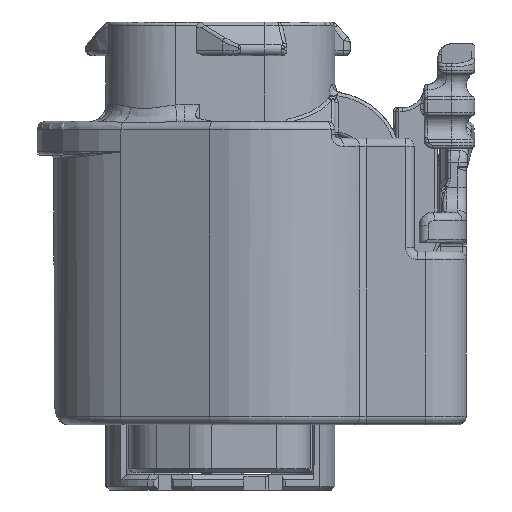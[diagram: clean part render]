
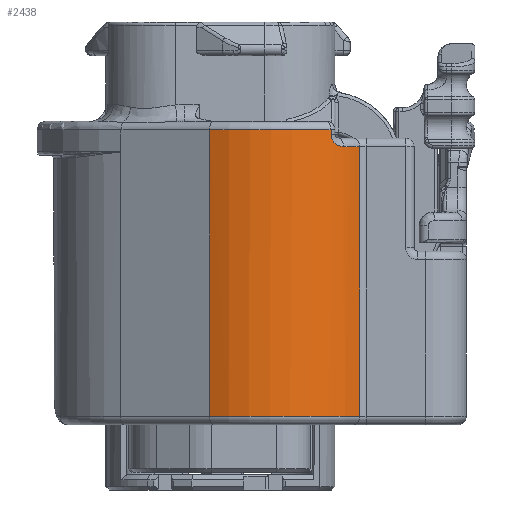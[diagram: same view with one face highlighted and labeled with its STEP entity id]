
A CAD part, left-side view. The second image highlights one B-rep face of the part: STEP entity #2438.
In plain terms, the highlighted cylindrical face has radius 7.25 mm (diameter 14.5 mm), a partial arc.
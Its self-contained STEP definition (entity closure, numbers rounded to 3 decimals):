
#2438=ADVANCED_FACE('',(#5950),#4859,.T.);
#4859=CYLINDRICAL_SURFACE('',#43408,7.25);
#5950=FACE_OUTER_BOUND('',#8516,.T.);
#8516=EDGE_LOOP('',(#18976,#18977,#18978,#18979,#18980,#18981,#18982));
#11052=B_SPLINE_CURVE_WITH_KNOTS('',3,(#64135,#64136,#64137,#64138,#64139,
#64140,#64141,#64142,#64143,#64144,#64145,#64146,#64147,#64148,#64149,#64150,
#64151,#64152,#64153),.UNSPECIFIED.,.F.,.F.,(4,3,3,3,3,3,4),(0.,0.054,
0.299,0.502,0.677,0.839,
1.),.UNSPECIFIED.);
#12403=LINE('',#64156,#15418);
#12404=LINE('',#64160,#15419);
#12405=LINE('',#64164,#15420);
#15418=VECTOR('',#49354,1.);
#15419=VECTOR('',#49357,1.);
#15420=VECTOR('',#49360,1.);
#18976=ORIENTED_EDGE('',*,*,#35379,.T.);
#18977=ORIENTED_EDGE('',*,*,#35380,.T.);
#18978=ORIENTED_EDGE('',*,*,#35381,.T.);
#18979=ORIENTED_EDGE('',*,*,#35382,.F.);
#18980=ORIENTED_EDGE('',*,*,#35383,.T.);
#18981=ORIENTED_EDGE('',*,*,#35384,.T.);
#18982=ORIENTED_EDGE('',*,*,#35385,.T.);
#31417=VERTEX_POINT('',#64154);
#31418=VERTEX_POINT('',#64155);
#31419=VERTEX_POINT('',#64157);
#31420=VERTEX_POINT('',#64159);
#31421=VERTEX_POINT('',#64161);
#31422=VERTEX_POINT('',#64163);
#31423=VERTEX_POINT('',#64165);
#35379=EDGE_CURVE('',#31417,#31418,#11052,.T.);
#35380=EDGE_CURVE('',#31418,#31419,#12403,.T.);
#35381=EDGE_CURVE('',#31419,#31420,#40873,.T.);
#35382=EDGE_CURVE('',#31421,#31420,#12404,.T.);
#35383=EDGE_CURVE('',#31421,#31422,#40874,.T.);
#35384=EDGE_CURVE('',#31422,#31423,#12405,.T.);
#35385=EDGE_CURVE('',#31423,#31417,#40875,.T.);
#40873=CIRCLE('',#43405,7.25);
#40874=CIRCLE('',#43406,7.25);
#40875=CIRCLE('',#43407,7.25);
#43405=AXIS2_PLACEMENT_3D('',#64158,#49355,#49356);
#43406=AXIS2_PLACEMENT_3D('',#64162,#49358,#49359);
#43407=AXIS2_PLACEMENT_3D('',#64166,#49361,#49362);
#43408=AXIS2_PLACEMENT_3D('',#64167,#49363,#49364);
#49354=DIRECTION('',(0.,0.,1.));
#49355=DIRECTION('',(0.,0.,-1.));
#49356=DIRECTION('',(1.,0.,0.));
#49357=DIRECTION('',(0.,0.,1.));
#49358=DIRECTION('',(0.,0.,1.));
#49359=DIRECTION('',(1.,0.,0.));
#49360=DIRECTION('',(0.,0.,1.));
#49361=DIRECTION('',(0.,0.,-1.));
#49362=DIRECTION('',(1.,0.,0.));
#49363=DIRECTION('',(0.,0.,1.));
#49364=DIRECTION('',(1.,0.,0.));
#64135=CARTESIAN_POINT('',(-9.844,-7.322,19.325));
#64136=CARTESIAN_POINT('',(-9.859,-7.304,19.325));
#64137=CARTESIAN_POINT('',(-9.874,-7.287,19.326));
#64138=CARTESIAN_POINT('',(-9.888,-7.269,19.327));
#64139=CARTESIAN_POINT('',(-9.955,-7.188,19.332));
#64140=CARTESIAN_POINT('',(-10.021,-7.105,19.35));
#64141=CARTESIAN_POINT('',(-10.082,-7.024,19.382));
#64142=CARTESIAN_POINT('',(-10.132,-6.958,19.409));
#64143=CARTESIAN_POINT('',(-10.18,-6.892,19.446));
#64144=CARTESIAN_POINT('',(-10.222,-6.832,19.494));
#64145=CARTESIAN_POINT('',(-10.258,-6.781,19.535));
#64146=CARTESIAN_POINT('',(-10.291,-6.733,19.585));
#64147=CARTESIAN_POINT('',(-10.318,-6.693,19.642));
#64148=CARTESIAN_POINT('',(-10.343,-6.655,19.695));
#64149=CARTESIAN_POINT('',(-10.364,-6.624,19.757));
#64150=CARTESIAN_POINT('',(-10.378,-6.603,19.822));
#64151=CARTESIAN_POINT('',(-10.391,-6.582,19.886));
#64152=CARTESIAN_POINT('',(-10.399,-6.57,19.956));
#64153=CARTESIAN_POINT('',(-10.399,-6.57,20.025));
#64154=CARTESIAN_POINT('',(-9.844,-7.322,19.325));
#64155=CARTESIAN_POINT('',(-10.399,-6.57,20.025));
#64156=CARTESIAN_POINT('',(-10.399,-6.57,2.825));
#64157=CARTESIAN_POINT('',(-10.399,-6.57,20.325));
#64158=CARTESIAN_POINT('',(-4.3,-2.65,20.325));
#64159=CARTESIAN_POINT('',(-10.76,0.641,20.325));
#64160=CARTESIAN_POINT('',(-10.76,0.641,2.825));
#64161=CARTESIAN_POINT('',(-10.76,0.641,3.325));
#64162=CARTESIAN_POINT('',(-4.3,-2.65,3.325));
#64163=CARTESIAN_POINT('',(-8.884,-8.267,3.325));
#64164=CARTESIAN_POINT('',(-8.884,-8.267,2.825));
#64165=CARTESIAN_POINT('',(-8.884,-8.267,19.325));
#64166=CARTESIAN_POINT('',(-4.3,-2.65,19.325));
#64167=CARTESIAN_POINT('',(-4.3,-2.65,2.825));
